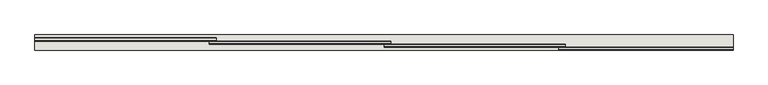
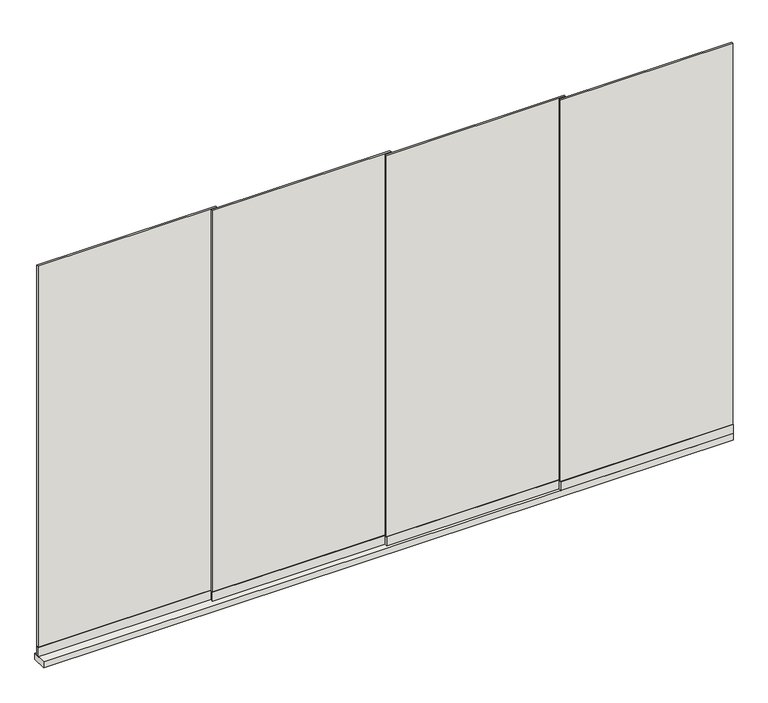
"""IFC4 building model written with IfcOpenShell, lengths in millimetres: wall geometry, Renson_Amani_Glass_Sliding_Panel : Renson_Amani_Glass_Sliding_Panel."""

from ifc_helpers import new_model, si_unit, frame, origin, origin_with_axes, place, context, project, spatial, polyline, outline, extrude, source, transform, mapped, element, save


def wall_d841771b(model_context):
    return source(origin(), model_context, "Body", "SweptSolid", [
        extrude(outline(polyline([(-1990.0, 48.0), (-2950.0, 48.0), (-2950.0, 64.0), (-1990.0, 64.0), (-1990.0, 48.0)])), frame((0.0, 0.0, 35.0), z_axis=(0.0, 0.0, 1.0), x_axis=(1.0, 0.0, 0.0)), (0.0, 0.0, 1.0), 51.0),
        extrude(outline(polyline([(750.0, 0.0), (-2950.0, 0.0), (-2950.0, 80.0), (750.0, 80.0), (750.0, 0.0)])), origin_with_axes(), (0.0, 0.0, 1.0), 35.0),
        extrude(outline(polyline([(750.0, 3.0), (-175.0, 3.0), (-175.0, 13.0), (750.0, 13.0), (750.0, 3.0)])), frame((0.0, 0.0, 86.0), z_axis=(0.0, 0.0, 1.0), x_axis=(1.0, 0.0, 0.0)), (0.0, 0.0, 1.0), 2164.0),
        extrude(outline(polyline([(-140.0, 19.0), (-1100.0, 19.0), (-1100.0, 29.0), (-140.0, 29.0), (-140.0, 19.0)])), frame((0.0, 0.0, 86.0), z_axis=(0.0, 0.0, 1.0), x_axis=(1.0, 0.0, 0.0)), (0.0, 0.0, 1.0), 2164.0),
        extrude(outline(polyline([(-1990.0, 51.0), (-2950.0, 51.0), (-2950.0, 61.0), (-1990.0, 61.0), (-1990.0, 51.0)])), frame((0.0, 0.0, 86.0), z_axis=(0.0, 0.0, 1.0), x_axis=(1.0, 0.0, 0.0)), (0.0, 0.0, 1.0), 2164.0),
        extrude(outline(polyline([(-1065.0, 35.0), (-2025.0, 35.0), (-2025.0, 45.0), (-1065.0, 45.0), (-1065.0, 35.0)])), frame((0.0, 0.0, 86.0), z_axis=(0.0, 0.0, 1.0), x_axis=(1.0, 0.0, 0.0)), (0.0, 0.0, 1.0), 2164.0),
        extrude(outline(polyline([(750.0, 0.0), (-175.0, 0.0), (-175.0, 16.0), (750.0, 16.0), (750.0, 0.0)])), frame((0.0, 0.0, 35.0), z_axis=(0.0, 0.0, 1.0), x_axis=(1.0, 0.0, 0.0)), (0.0, 0.0, 1.0), 51.0),
        extrude(outline(polyline([(-140.0, 16.0), (-1100.0, 16.0), (-1100.0, 32.0), (-140.0, 32.0), (-140.0, 16.0)])), frame((0.0, 0.0, 35.0), z_axis=(0.0, 0.0, 1.0), x_axis=(1.0, 0.0, 0.0)), (0.0, 0.0, 1.0), 51.0),
        extrude(outline(polyline([(-1065.0, 32.0), (-2025.0, 32.0), (-2025.0, 48.0), (-1065.0, 48.0), (-1065.0, 32.0)])), frame((0.0, 0.0, 35.0), z_axis=(0.0, 0.0, 1.0), x_axis=(1.0, 0.0, 0.0)), (0.0, 0.0, 1.0), 51.0),
    ])


if __name__ == "__main__":
    model = new_model("IFC4")
    model_context = context("Model", 3, world=origin())
    ifc_project = project(units=[si_unit("LENGTHUNIT", "METRE", prefix="MILLI")], contexts=[model_context])
    site = spatial("IfcSite", under=ifc_project)
    building = spatial("IfcBuilding", under=site)
    placement = place(None, origin())
    wall_shape = wall_d841771b(model_context)
    element("IfcWall", 1, ObjectType="Renson_Amani_Glass_Sliding_Panel : Renson_Amani_Glass_Sliding_Panel", at=placement, inside=building, context=model_context, shape_type="MappedRepresentation", body=[
        mapped(wall_shape, transform((0.0, 0.0, 0.0), x_axis=(1.0, 0.0, 0.0), y_axis=(0.0, 1.0, 0.0), z_axis=(0.0, 0.0, 1.0))),
    ])
    save(model, "model.ifc")
